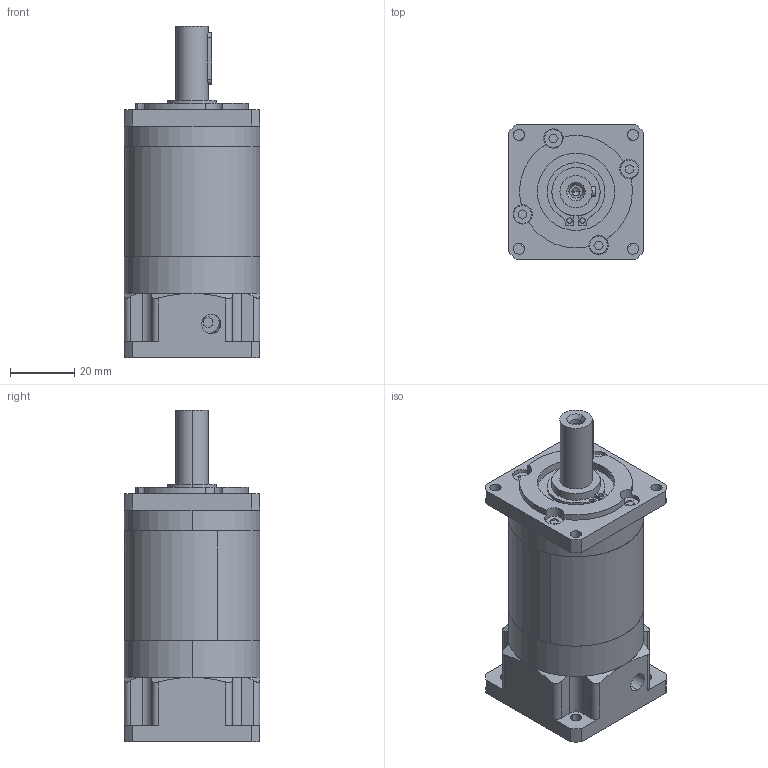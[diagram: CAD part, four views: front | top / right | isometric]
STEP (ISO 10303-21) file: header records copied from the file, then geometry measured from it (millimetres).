
FILE_DESCRIPTION (( 'STEP AP203' ), '1' );
FILE_NAME ('PLF040-L2-5-22-43.8.STEP', '2023-07-05T08:16:46', ( 'Windows User' ), ( 'P R C' ), 'SwSTEP 2.0', 'SolidWorks 2016', '' );
FILE_SCHEMA (( 'CONFIG_CONTROL_DESIGN' ));
Length unit declared in the file: millimetre
Products named in the file (8): 邧埴瑩 3x3x16; 囀鞠褒蹟佪-M4℅12; GB／T276-94深沟球轴承61902-2RZ; PLF040 蟀諉啣 22-3.4-43.8_1; PLF040-L2-5-22-43.8; PLF040 奻屳唳; PLF040 內齿圈_二级内齿圈; PLF040狟裔- 梓袧
Assembly tree (7 placements, depth 2):
  PLF040-L2-5-22-43.8
    PLF040 奻屳唳
    PLF040 內齿圈_二级内齿圈
    PLF040狟裔- 梓袧
    邧埴瑩 3x3x16
    囀鞠褒蹟佪-M4℅12
    GB／T276-94深沟球轴承61902-2RZ
    PLF040 蟀諉啣 22-3.4-43.8_1
Bounding box: 42 x 42 x 103 mm (x, y, z)
Volume: 103141.3 mm3; surface area: 36992.3 mm2
Topology: 19 solids, 19 shells, 1161 faces, 3263 edges, 2167 vertices
Faces by surface type: plane 648, bspline 196, cylinder 188, sphere 78, torus 45, cone 6
Entity records: 48776 total; most frequent: CARTESIAN_POINT 19215, ORIENTED_EDGE 6462, DIRECTION 5217, EDGE_CURVE 3231, VERTEX_POINT 2147, AXIS2_PLACEMENT_3D 1756, VECTOR 1705, LINE 1705
